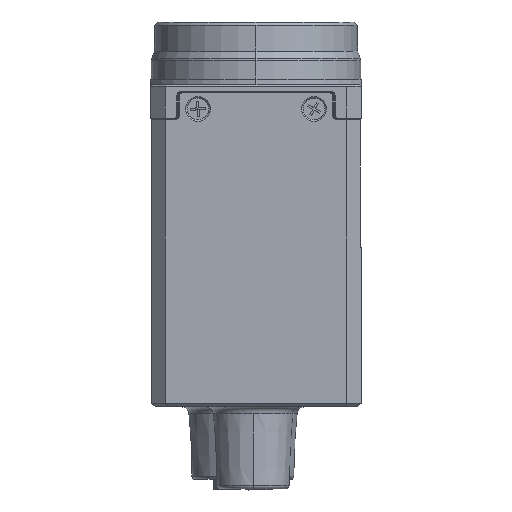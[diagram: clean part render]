
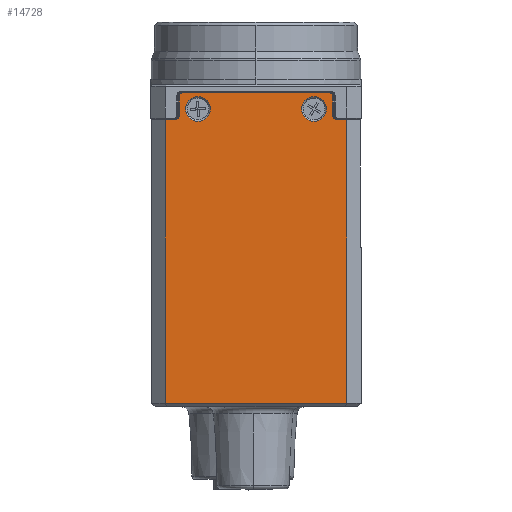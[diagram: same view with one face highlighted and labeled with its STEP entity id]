
A CAD part, left-side view. The second image highlights one B-rep face of the part: STEP entity #14728.
In plain terms, the highlighted planar face has unit normal (-1, 0, 0).
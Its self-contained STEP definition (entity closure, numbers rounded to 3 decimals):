
#248 = AXIS2_PLACEMENT_3D ( 'NONE', #15803, #25668, #23732 ) ;
#431 = LINE ( 'NONE', #25605, #21745 ) ;
#519 = CARTESIAN_POINT ( 'NONE',  ( -22., -8., 5.3 ) ) ;
#547 = CIRCLE ( 'NONE', #10501, 0.6 ) ;
#1147 = LINE ( 'NONE', #20741, #16717 ) ;
#1171 = CARTESIAN_POINT ( 'NONE',  ( -22., -12.5, 5.5 ) ) ;
#1253 = ORIENTED_EDGE ( 'NONE', *, *, #17716, .F. ) ;
#1453 = CARTESIAN_POINT ( 'NONE',  ( -22., 8., 5.3 ) ) ;
#1468 = DIRECTION ( 'NONE',  ( 0., 1., 0. ) ) ;
#1678 = VERTEX_POINT ( 'NONE', #19884 ) ;
#1714 = DIRECTION ( 'NONE',  ( 0., 0., 1. ) ) ;
#1796 = ORIENTED_EDGE ( 'NONE', *, *, #3148, .T. ) ;
#1848 = CARTESIAN_POINT ( 'NONE',  ( -22., -11.2, 5.5 ) ) ;
#1856 = VERTEX_POINT ( 'NONE', #14549 ) ;
#1986 = CARTESIAN_POINT ( 'NONE',  ( -22., -8., 7. ) ) ;
#2249 = EDGE_CURVE ( 'NONE', #1678, #16743, #13328, .T. ) ;
#2513 = DIRECTION ( 'NONE',  ( 0., 1., 0. ) ) ;
#3148 = EDGE_CURVE ( 'NONE', #4464, #23771, #11701, .T. ) ;
#3209 = CARTESIAN_POINT ( 'NONE',  ( -22., -11.2, 5.5 ) ) ;
#3473 = CARTESIAN_POINT ( 'NONE',  ( -22., 14.4, 5.6 ) ) ;
#3589 = EDGE_LOOP ( 'NONE', ( #1253, #25083 ) ) ;
#3615 = CIRCLE ( 'NONE', #22269, 0.4 ) ;
#3838 = ORIENTED_EDGE ( 'NONE', *, *, #17581, .T. ) ;
#3945 = ORIENTED_EDGE ( 'NONE', *, *, #15183, .F. ) ;
#4067 = DIRECTION ( 'NONE',  ( 0., 0., 1. ) ) ;
#4464 = VERTEX_POINT ( 'NONE', #1171 ) ;
#4737 = DIRECTION ( 'NONE',  ( 0., 1., 0. ) ) ;
#4938 = VECTOR ( 'NONE', #25314, 1000. ) ;
#4939 = VECTOR ( 'NONE', #13378, 1000. ) ;
#4984 = LINE ( 'NONE', #20421, #22668 ) ;
#5172 = EDGE_CURVE ( 'NONE', #12909, #11239, #24371, .T. ) ;
#5471 = CARTESIAN_POINT ( 'NONE',  ( -22., 10.6, 5.6 ) ) ;
#5529 = EDGE_CURVE ( 'NONE', #21335, #1678, #3615, .T. ) ;
#5545 = DIRECTION ( 'NONE',  ( 0., 1., 0. ) ) ;
#5671 = FACE_BOUND ( 'NONE', #21734, .T. ) ;
#5769 = DIRECTION ( 'NONE',  ( 0., 0., 1. ) ) ;
#6012 = CARTESIAN_POINT ( 'NONE',  ( -22., 8., 7. ) ) ;
#6028 = ORIENTED_EDGE ( 'NONE', *, *, #21860, .T. ) ;
#6670 = CARTESIAN_POINT ( 'NONE',  ( -22., -11.2, 6.1 ) ) ;
#6991 = DIRECTION ( 'NONE',  ( 0., 0., 1. ) ) ;
#7098 = CARTESIAN_POINT ( 'NONE',  ( -22., -8., 8.7 ) ) ;
#7307 = AXIS2_PLACEMENT_3D ( 'NONE', #6012, #13914, #4067 ) ;
#7494 = CARTESIAN_POINT ( 'NONE',  ( -22., 14.4, 9.2 ) ) ;
#7525 = ORIENTED_EDGE ( 'NONE', *, *, #24586, .F. ) ;
#7727 = VECTOR ( 'NONE', #2513, 1000. ) ;
#8339 = LINE ( 'NONE', #12104, #7727 ) ;
#8385 = ORIENTED_EDGE ( 'NONE', *, *, #14044, .T. ) ;
#8438 = VERTEX_POINT ( 'NONE', #9305 ) ;
#8535 = CIRCLE ( 'NONE', #248, 1.7 ) ;
#8567 = CIRCLE ( 'NONE', #7307, 1.7 ) ;
#8867 = ORIENTED_EDGE ( 'NONE', *, *, #5529, .T. ) ;
#9305 = CARTESIAN_POINT ( 'NONE',  ( -22., 8., 8.7 ) ) ;
#9309 = EDGE_CURVE ( 'NONE', #15467, #8438, #16942, .T. ) ;
#9443 = AXIS2_PLACEMENT_3D ( 'NONE', #1986, #23173, #9899 ) ;
#9801 = ORIENTED_EDGE ( 'NONE', *, *, #19317, .F. ) ;
#9899 = DIRECTION ( 'NONE',  ( 0., 0., 1. ) ) ;
#9999 = EDGE_CURVE ( 'NONE', #13035, #13625, #10318, .T. ) ;
#10318 = CIRCLE ( 'NONE', #23986, 0.6 ) ;
#10501 = AXIS2_PLACEMENT_3D ( 'NONE', #6670, #14581, #4737 ) ;
#10561 = EDGE_CURVE ( 'NONE', #14075, #13035, #15318, .T. ) ;
#10699 = AXIS2_PLACEMENT_3D ( 'NONE', #11315, #17404, #1714 ) ;
#11239 = VERTEX_POINT ( 'NONE', #7098 ) ;
#11315 = CARTESIAN_POINT ( 'NONE',  ( -22., 8., 7. ) ) ;
#11333 = CARTESIAN_POINT ( 'NONE',  ( -22., 11.2, 6.1 ) ) ;
#11701 = LINE ( 'NONE', #1848, #4938 ) ;
#11787 = CARTESIAN_POINT ( 'NONE',  ( -22., 12.5, 5.5 ) ) ;
#11805 = CARTESIAN_POINT ( 'NONE',  ( -22., 10.2, 8.8 ) ) ;
#12104 = CARTESIAN_POINT ( 'NONE',  ( -22., 12.5, 5.5 ) ) ;
#12285 = VECTOR ( 'NONE', #15398, 1000. ) ;
#12651 = DIRECTION ( 'NONE',  ( 0., -1., 0. ) ) ;
#12909 = VERTEX_POINT ( 'NONE', #519 ) ;
#13035 = VERTEX_POINT ( 'NONE', #14908 ) ;
#13328 = LINE ( 'NONE', #7494, #12285 ) ;
#13378 = DIRECTION ( 'NONE',  ( 0., 0., -1. ) ) ;
#13580 = PLANE ( 'NONE',  #22135 ) ;
#13625 = VERTEX_POINT ( 'NONE', #16286 ) ;
#13914 = DIRECTION ( 'NONE',  ( -1., 0., 0. ) ) ;
#14044 = EDGE_CURVE ( 'NONE', #15543, #21335, #431, .T. ) ;
#14075 = VERTEX_POINT ( 'NONE', #16764 ) ;
#14549 = CARTESIAN_POINT ( 'NONE',  ( -22., 12.5, -33.6 ) ) ;
#14581 = DIRECTION ( 'NONE',  ( 1., 0., 0. ) ) ;
#14728 = ADVANCED_FACE ( 'NONE', ( #5671, #23193, #19687 ), #13580, .F. ) ;
#14908 = CARTESIAN_POINT ( 'NONE',  ( -22., 10.6, 6.1 ) ) ;
#15056 = AXIS2_PLACEMENT_3D ( 'NONE', #11805, #19717, #23748 ) ;
#15183 = EDGE_CURVE ( 'NONE', #4464, #22844, #4984, .T. ) ;
#15212 = LINE ( 'NONE', #23139, #16819 ) ;
#15318 = LINE ( 'NONE', #5471, #4939 ) ;
#15347 = DIRECTION ( 'NONE',  ( 1., 0., 0. ) ) ;
#15398 = DIRECTION ( 'NONE',  ( 0., 1., 0. ) ) ;
#15467 = VERTEX_POINT ( 'NONE', #1453 ) ;
#15543 = VERTEX_POINT ( 'NONE', #24037 ) ;
#15569 = DIRECTION ( 'NONE',  ( 0., 1., 0. ) ) ;
#15726 = CARTESIAN_POINT ( 'NONE',  ( -22., -10.6, 8.8 ) ) ;
#15803 = CARTESIAN_POINT ( 'NONE',  ( -22., -8., 7. ) ) ;
#16286 = CARTESIAN_POINT ( 'NONE',  ( -22., 11.2, 5.5 ) ) ;
#16510 = ORIENTED_EDGE ( 'NONE', *, *, #10561, .T. ) ;
#16717 = VECTOR ( 'NONE', #6991, 1000. ) ;
#16743 = VERTEX_POINT ( 'NONE', #20370 ) ;
#16764 = CARTESIAN_POINT ( 'NONE',  ( -22., 10.6, 8.8 ) ) ;
#16819 = VECTOR ( 'NONE', #12651, 1000. ) ;
#16894 = DIRECTION ( 'NONE',  ( 0., 0., -1. ) ) ;
#16942 = CIRCLE ( 'NONE', #10699, 1.7 ) ;
#17251 = CARTESIAN_POINT ( 'NONE',  ( -22., -10.2, 8.8 ) ) ;
#17404 = DIRECTION ( 'NONE',  ( -1., 0., 0. ) ) ;
#17506 = CARTESIAN_POINT ( 'NONE',  ( -22., -12.5, -33.6 ) ) ;
#17513 = EDGE_CURVE ( 'NONE', #1856, #22844, #15212, .T. ) ;
#17581 = EDGE_CURVE ( 'NONE', #13625, #23611, #8339, .T. ) ;
#17716 = EDGE_CURVE ( 'NONE', #8438, #15467, #8567, .T. ) ;
#19317 = EDGE_CURVE ( 'NONE', #1856, #23611, #1147, .T. ) ;
#19548 = DIRECTION ( 'NONE',  ( 1., 0., 0. ) ) ;
#19634 = ORIENTED_EDGE ( 'NONE', *, *, #17513, .T. ) ;
#19687 = FACE_OUTER_BOUND ( 'NONE', #21072, .T. ) ;
#19717 = DIRECTION ( 'NONE',  ( -1., 0., 0. ) ) ;
#19884 = CARTESIAN_POINT ( 'NONE',  ( -22., -10.2, 9.2 ) ) ;
#20041 = CIRCLE ( 'NONE', #15056, 0.4 ) ;
#20370 = CARTESIAN_POINT ( 'NONE',  ( -22., 10.2, 9.2 ) ) ;
#20421 = CARTESIAN_POINT ( 'NONE',  ( -22., -12.5, 5.6 ) ) ;
#20741 = CARTESIAN_POINT ( 'NONE',  ( -22., 12.5, 5.6 ) ) ;
#20947 = ORIENTED_EDGE ( 'NONE', *, *, #9999, .T. ) ;
#20983 = ORIENTED_EDGE ( 'NONE', *, *, #2249, .T. ) ;
#21072 = EDGE_LOOP ( 'NONE', ( #9801, #19634, #3945, #1796, #21971, #8385, #8867, #20983, #6028, #16510, #20947, #3838 ) ) ;
#21289 = EDGE_CURVE ( 'NONE', #23771, #15543, #547, .T. ) ;
#21335 = VERTEX_POINT ( 'NONE', #15726 ) ;
#21734 = EDGE_LOOP ( 'NONE', ( #7525, #25099 ) ) ;
#21745 = VECTOR ( 'NONE', #5769, 1000. ) ;
#21860 = EDGE_CURVE ( 'NONE', #16743, #14075, #20041, .T. ) ;
#21971 = ORIENTED_EDGE ( 'NONE', *, *, #21289, .T. ) ;
#22135 = AXIS2_PLACEMENT_3D ( 'NONE', #3473, #19548, #5545 ) ;
#22269 = AXIS2_PLACEMENT_3D ( 'NONE', #17251, #25166, #15569 ) ;
#22668 = VECTOR ( 'NONE', #16894, 1000. ) ;
#22844 = VERTEX_POINT ( 'NONE', #17506 ) ;
#23139 = CARTESIAN_POINT ( 'NONE',  ( -22., 14.4, -33.6 ) ) ;
#23173 = DIRECTION ( 'NONE',  ( -1., 0., 0. ) ) ;
#23193 = FACE_BOUND ( 'NONE', #3589, .T. ) ;
#23611 = VERTEX_POINT ( 'NONE', #11787 ) ;
#23732 = DIRECTION ( 'NONE',  ( 0., 0., 1. ) ) ;
#23748 = DIRECTION ( 'NONE',  ( 0., 1., 0. ) ) ;
#23771 = VERTEX_POINT ( 'NONE', #3209 ) ;
#23986 = AXIS2_PLACEMENT_3D ( 'NONE', #11333, #15347, #1468 ) ;
#24037 = CARTESIAN_POINT ( 'NONE',  ( -22., -10.6, 6.1 ) ) ;
#24371 = CIRCLE ( 'NONE', #9443, 1.7 ) ;
#24586 = EDGE_CURVE ( 'NONE', #11239, #12909, #8535, .T. ) ;
#25083 = ORIENTED_EDGE ( 'NONE', *, *, #9309, .F. ) ;
#25099 = ORIENTED_EDGE ( 'NONE', *, *, #5172, .F. ) ;
#25166 = DIRECTION ( 'NONE',  ( -1., 0., 0. ) ) ;
#25314 = DIRECTION ( 'NONE',  ( 0., 1., 0. ) ) ;
#25605 = CARTESIAN_POINT ( 'NONE',  ( -22., -10.6, 5.6 ) ) ;
#25668 = DIRECTION ( 'NONE',  ( -1., 0., 0. ) ) ;
